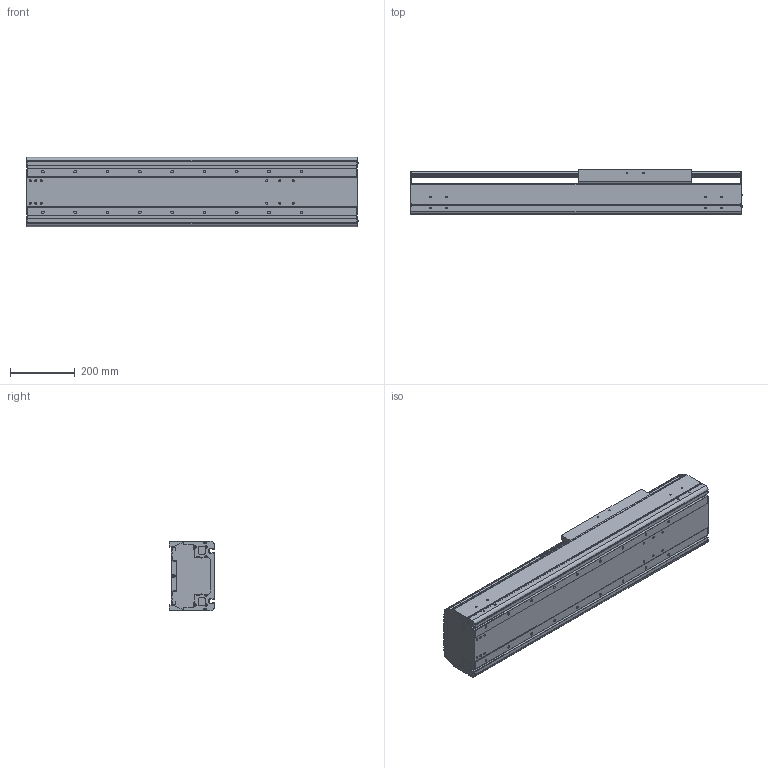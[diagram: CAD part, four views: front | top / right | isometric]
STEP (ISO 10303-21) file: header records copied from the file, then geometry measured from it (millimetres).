
FILE_DESCRIPTION((''),'2;1');
FILE_NAME('BE60J-ST-L_B-45_IGS_PRT','2017-06-18T',(' '),(''),'PRO/ENGINEER BY PARAMETRIC TECHNOLOGY CORPORATION, 2015030','PRO/ENGINEER BY PARAMETRIC TECHNOLOGY CORPORATION, 2015030','');
FILE_SCHEMA(('CONFIG_CONTROL_DESIGN'));
Length unit declared in the file: millimetre
Products named in the file (1): BE60J-ST-L_B-45_IGS_PRT
Bounding box: 1027.4 x 140 x 214 mm (x, y, z)
Volume: 8763642.3 mm3; surface area: 2299595.3 mm2
Topology: 2 solids, 32 shells, 1107 faces, 2950 edges, 1897 vertices
Faces by surface type: plane 519, cylinder 480, cone 60, sphere 24, torus 24
Entity records: 34829 total; most frequent: CARTESIAN_POINT 6570, DIRECTION 6042, ORIENTED_EDGE 5672, EDGE_CURVE 2892, AXIS2_PLACEMENT_3D 2160, VERTEX_POINT 1896, VECTOR 1722, LINE 1722
